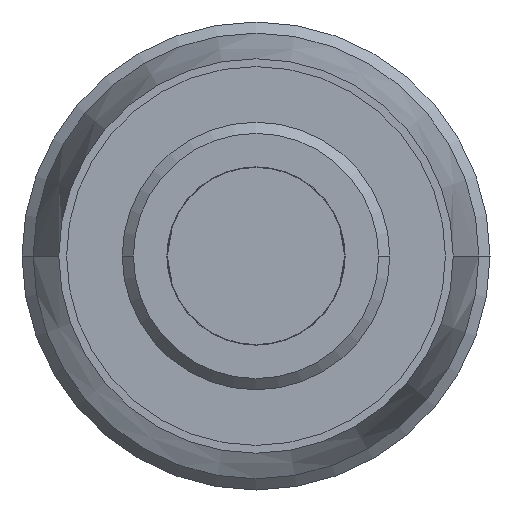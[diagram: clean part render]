
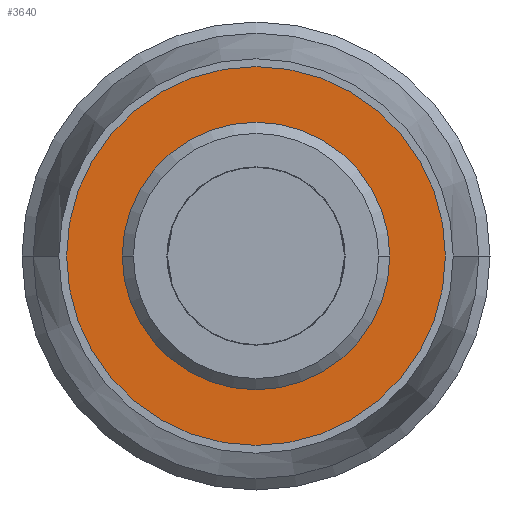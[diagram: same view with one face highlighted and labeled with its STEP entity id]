
A CAD part, left-side view. The second image highlights one B-rep face of the part: STEP entity #3640.
In plain terms, the highlighted planar face has unit normal (-1, 0, 0).
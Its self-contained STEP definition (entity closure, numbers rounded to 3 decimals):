
#3160=CARTESIAN_POINT('',(106.267,34.54,0.));
#3170=VERTEX_POINT('',#3160);
#3250=CARTESIAN_POINT('',(106.267,51.54,
0.));
#3260=VERTEX_POINT('',#3250);
#3290=CARTESIAN_POINT('',(106.267,43.04,0.));
#3300=DIRECTION('',(1.,0.,0.));
#3310=DIRECTION('',(0.,1.,0.));
#3320=AXIS2_PLACEMENT_3D('',#3290,#3300,#3310);
#3330=CIRCLE('',#3320,8.5);
#3340=EDGE_CURVE('',#3170,#3260,#3330,.T.);
#3390=CARTESIAN_POINT('',(106.267,50.19,0.));
#3400=DIRECTION('',(1.,0.,0.));
#3410=DIRECTION('',(0.,-1.,0.));
#3420=AXIS2_PLACEMENT_3D('',#3390,#3400,#3410);
#3430=PLANE('',#3420);
#3440=CARTESIAN_POINT('',(106.267,43.04,0.));
#3450=DIRECTION('',(1.,0.,0.));
#3460=DIRECTION('',(0.,1.,0.));
#3470=AXIS2_PLACEMENT_3D('',#3440,#3450,#3460);
#3480=CIRCLE('',#3470,5.8);
#3490=CARTESIAN_POINT('',(106.267,48.84,
0.));
#3500=VERTEX_POINT('',#3490);
#3510=CARTESIAN_POINT('',(106.267,37.24,0.));
#3520=VERTEX_POINT('',#3510);
#3530=EDGE_CURVE('',#3500,#3520,#3480,.T.);
#3540=ORIENTED_EDGE('',*,*,#3530,.T.);
#3550=EDGE_CURVE('',#3520,#3500,#3480,.T.);
#3560=ORIENTED_EDGE('',*,*,#3550,.T.);
#3570=EDGE_LOOP('',(#3560,#3540));
#3580=FACE_BOUND('',#3570,.T.);
#3590=EDGE_CURVE('',#3260,#3170,#3330,.T.);
#3600=ORIENTED_EDGE('',*,*,#3590,.F.);
#3610=ORIENTED_EDGE('',*,*,#3340,.F.);
#3620=EDGE_LOOP('',(#3610,#3600));
#3630=FACE_OUTER_BOUND('',#3620,.T.);
#3640=ADVANCED_FACE('',(#3580,#3630),#3430,.F.);
